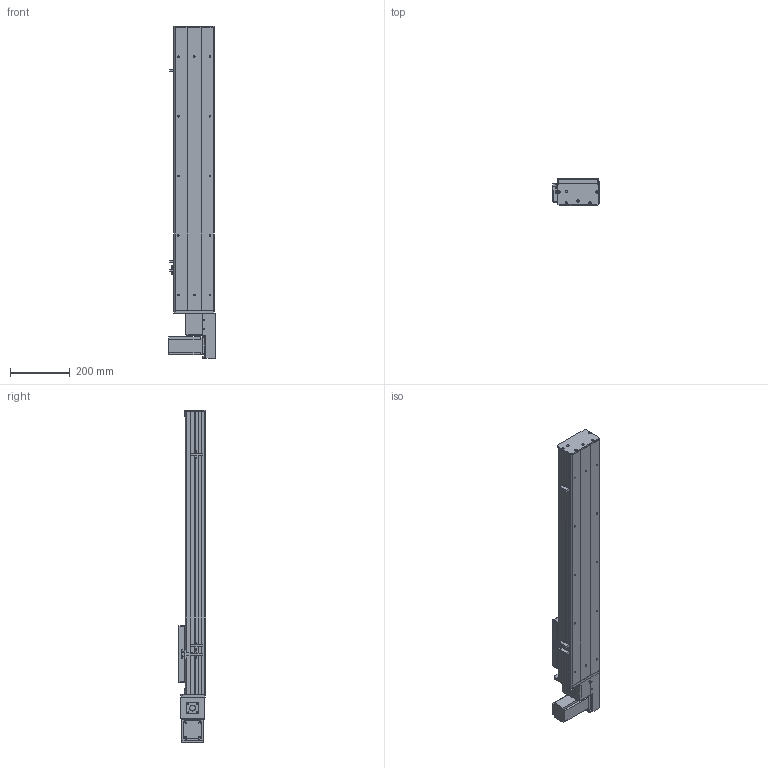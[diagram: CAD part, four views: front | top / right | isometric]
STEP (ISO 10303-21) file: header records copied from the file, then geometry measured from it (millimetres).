
FILE_DESCRIPTION (( 'STEP AP203' ), '1' );
FILE_NAME ('Y135CB-D90-S650-BL-P400W.STEP', '2020-02-17T08:31:30', ( '微软用户' ), ( '微软中国' ), 'SwSTEP 2.0', 'SolidWorks 2017', '' );
FILE_SCHEMA (( 'CONFIG_CONTROL_DESIGN' ));
Length unit declared in the file: millimetre
Products named in the file (18): C-詩湍揤踡え-陔; Y10B--々湍喘謫眊--666; 135CB--詩湍-CE; Y10B-耜蚾蟀諉啣----; Y100-135俋离換覜ん--; Y俋欶BR----; Y135C-陔俋离換覜結え-; 0B-埴倛裔啣; 5C--俋欶; 0B-源倛裔啣; C-雄赽釱--; 0B-萇儂楊擘啣; Y135CB-耜裔; Y135CB-D90-S650-BL-P400W; san松下电机400不带刹车----; 135CB---遴掛极.-; 5CB --掛极耜裔啣-; 35CB---喘謫眊楊擘啣
Assembly tree (21 placements, depth 2):
  Y135CB-D90-S650-BL-P400W
    Y135CB-耜裔
    135CB---遴掛极.-
    35CB---喘謫眊楊擘啣
    Y10B--々湍喘謫眊--666
    Y10B-耜蚾蟀諉啣----
    Y俋欶BR----
    0B-埴倛裔啣
    0B-源倛裔啣
    0B-萇儂楊擘啣
    san松下电机400不带刹车----
    5CB --掛极耜裔啣-  x2
    C-詩湍揤踡え-陔  x2
    135CB--詩湍-CE
    Y100-135俋离換覜ん--  x3
    Y135C-陔俋离換覜結え-
    5C--俋欶
    C-雄赽釱--
Bounding box: 157.5 x 91 x 1114.5 mm (x, y, z)
Volume: 3478440.3 mm3; surface area: 1352416.8 mm2
Topology: 21 solids, 21 shells, 937 faces, 2491 edges, 1650 vertices
Faces by surface type: cylinder 463, plane 458, cone 16
Entity records: 28937 total; most frequent: DIRECTION 4803, CARTESIAN_POINT 4724, ORIENTED_EDGE 4458, EDGE_CURVE 2229, AXIS2_PLACEMENT_3D 1745, VERTEX_POINT 1478, VECTOR 1313, LINE 1313
